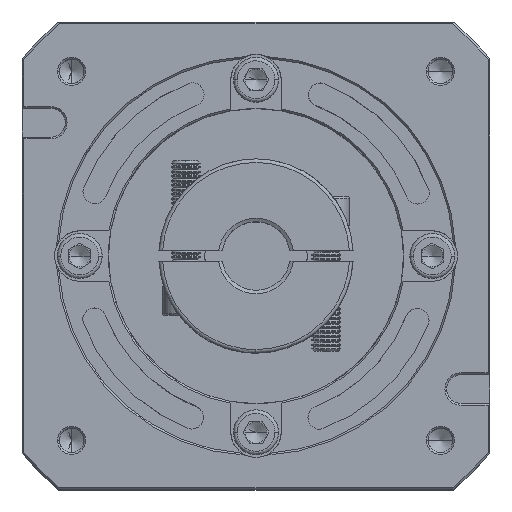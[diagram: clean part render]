
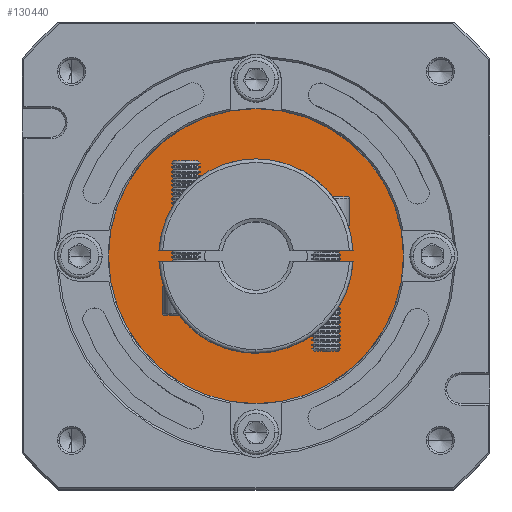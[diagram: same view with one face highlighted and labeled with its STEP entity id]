
A CAD part, top view. The second image highlights one B-rep face of the part: STEP entity #130440.
In plain terms, the highlighted planar face has unit normal (0, 0, 1).
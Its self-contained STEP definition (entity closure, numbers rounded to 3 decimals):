
#7609 = ORIENTED_EDGE ( 'NONE', *, *, #75430, .T. ) ;
#9113 = CARTESIAN_POINT ( 'NONE',  ( 53.908, 53.71, -30.444 ) ) ;
#13424 = DIRECTION ( 'NONE',  ( 1., 0., 0. ) ) ;
#14072 = ORIENTED_EDGE ( 'NONE', *, *, #79507, .T. ) ;
#15799 = CARTESIAN_POINT ( 'NONE',  ( 53.908, 53.71, -30.444 ) ) ;
#26025 = CARTESIAN_POINT ( 'NONE',  ( 73.908, 53.71, -30.444 ) ) ;
#26782 = DIRECTION ( 'NONE',  ( 0., 0., 1. ) ) ;
#30237 = FACE_OUTER_BOUND ( 'NONE', #63024, .T. ) ;
#31959 = FACE_BOUND ( 'NONE', #79064, .T. ) ;
#38459 = ORIENTED_EDGE ( 'NONE', *, *, #58942, .T. ) ;
#45506 = CIRCLE ( 'NONE', #75468, 20. ) ;
#51652 = CIRCLE ( 'NONE', #111821, 41. ) ;
#57089 = DIRECTION ( 'NONE',  ( 1., 0., 0. ) ) ;
#58942 = EDGE_CURVE ( 'NONE', #96364, #100410, #122644, .T. ) ;
#63024 = EDGE_LOOP ( 'NONE', ( #7609, #70056 ) ) ;
#67035 = VERTEX_POINT ( 'NONE', #110583 ) ;
#70056 = ORIENTED_EDGE ( 'NONE', *, *, #90039, .T. ) ;
#70950 = DIRECTION ( 'NONE',  ( 1., 0., 0. ) ) ;
#75430 = EDGE_CURVE ( 'NONE', #67035, #128137, #51652, .T. ) ;
#75468 = AXIS2_PLACEMENT_3D ( 'NONE', #9113, #82120, #103380 ) ;
#79064 = EDGE_LOOP ( 'NONE', ( #38459, #14072 ) ) ;
#79507 = EDGE_CURVE ( 'NONE', #100410, #96364, #45506, .T. ) ;
#79920 = DIRECTION ( 'NONE',  ( 0., 0., 1. ) ) ;
#82120 = DIRECTION ( 'NONE',  ( 0., 0., -1. ) ) ;
#83882 = CARTESIAN_POINT ( 'NONE',  ( 33.908, 53.71, -30.444 ) ) ;
#85776 = AXIS2_PLACEMENT_3D ( 'NONE', #102071, #79920, #112579 ) ;
#90039 = EDGE_CURVE ( 'NONE', #128137, #67035, #114933, .T. ) ;
#93074 = AXIS2_PLACEMENT_3D ( 'NONE', #15799, #26782, #57089 ) ;
#96364 = VERTEX_POINT ( 'NONE', #26025 ) ;
#99414 = CARTESIAN_POINT ( 'NONE',  ( 53.908, 53.71, -30.444 ) ) ;
#100410 = VERTEX_POINT ( 'NONE', #83882 ) ;
#102071 = CARTESIAN_POINT ( 'NONE',  ( 53.908, 53.71, -30.444 ) ) ;
#103380 = DIRECTION ( 'NONE',  ( 1., 0., 0. ) ) ;
#109462 = DIRECTION ( 'NONE',  ( 0., 0., -1. ) ) ;
#110583 = CARTESIAN_POINT ( 'NONE',  ( 94.908, 53.71, -30.444 ) ) ;
#111821 = AXIS2_PLACEMENT_3D ( 'NONE', #134916, #135370, #70950 ) ;
#112579 = DIRECTION ( 'NONE',  ( 1., 0., 0. ) ) ;
#114933 = CIRCLE ( 'NONE', #93074, 41. ) ;
#122644 = CIRCLE ( 'NONE', #126165, 20. ) ;
#126165 = AXIS2_PLACEMENT_3D ( 'NONE', #99414, #109462, #13424 ) ;
#128137 = VERTEX_POINT ( 'NONE', #131340 ) ;
#130440 = ADVANCED_FACE ( 'NONE', ( #30237, #31959 ), #132415, .T. ) ;
#131340 = CARTESIAN_POINT ( 'NONE',  ( 12.908, 53.71, -30.444 ) ) ;
#132415 = PLANE ( 'NONE',  #85776 ) ;
#134916 = CARTESIAN_POINT ( 'NONE',  ( 53.908, 53.71, -30.444 ) ) ;
#135370 = DIRECTION ( 'NONE',  ( 0., 0., 1. ) ) ;
